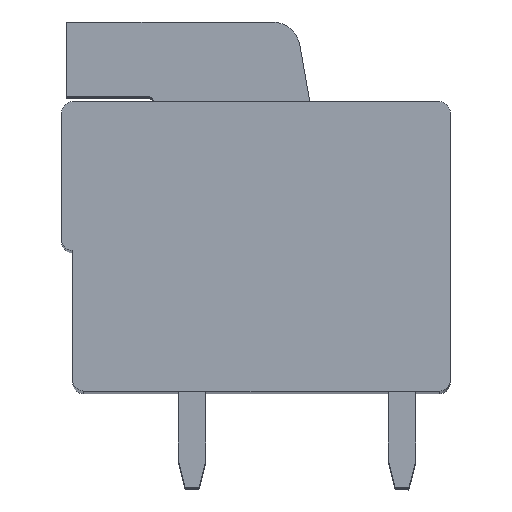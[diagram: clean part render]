
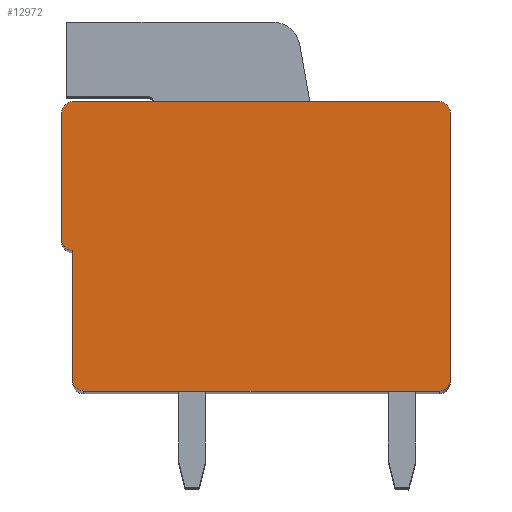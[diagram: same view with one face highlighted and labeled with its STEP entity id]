
A CAD part, top view. The second image highlights one B-rep face of the part: STEP entity #12972.
In plain terms, the highlighted planar face has unit normal (0, 0, 1).
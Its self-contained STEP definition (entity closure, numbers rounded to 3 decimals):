
#88=DIRECTION('',(0.,-1.,0.));
#89=VECTOR('',#88,4.607);
#90=CARTESIAN_POINT('',(0.002,13.603,0.));
#91=LINE('',#90,#89);
#302=DIRECTION('',(0.,-1.,0.));
#303=VECTOR('',#302,4.698);
#304=CARTESIAN_POINT('',(0.4,8.6,0.));
#305=LINE('',#304,#303);
#2142=DIRECTION('',(-1.,0.,0.));
#2143=VECTOR('',#2142,13.304);
#2144=CARTESIAN_POINT('',(13.702,14.,0.));
#2145=LINE('',#2144,#2143);
#4167=CARTESIAN_POINT('',(13.702,13.6,0.));
#4168=DIRECTION('',(0.,0.,-1.));
#4169=DIRECTION('',(0.,1.,0.));
#4170=AXIS2_PLACEMENT_3D('',#4167,#4168,#4169);
#4172=DIRECTION('',(0.,-1.,0.));
#4173=VECTOR('',#4172,9.7);
#4174=CARTESIAN_POINT('',(14.102,13.6,0.));
#4175=LINE('',#4174,#4173);
#4176=CARTESIAN_POINT('',(13.702,3.9,0.));
#4177=DIRECTION('',(0.,0.,-1.));
#4178=DIRECTION('',(1.,0.,0.));
#4179=AXIS2_PLACEMENT_3D('',#4176,#4177,#4178);
#4181=DIRECTION('',(-1.,0.,0.));
#4182=VECTOR('',#4181,12.902);
#4183=CARTESIAN_POINT('',(13.702,3.5,0.));
#4184=LINE('',#4183,#4182);
#4185=CARTESIAN_POINT('',(0.8,3.9,0.));
#4186=DIRECTION('',(0.,0.,-1.));
#4187=DIRECTION('',(0.001,-1.,0.));
#4188=AXIS2_PLACEMENT_3D('',#4185,#4186,#4187);
#4190=CARTESIAN_POINT('',(0.4,9.,0.));
#4191=DIRECTION('',(0.,0.,-1.));
#4192=DIRECTION('',(-0.001,-1.,0.));
#4193=AXIS2_PLACEMENT_3D('',#4190,#4191,#4192);
#4195=CARTESIAN_POINT('',(0.398,13.604,0.));
#4196=DIRECTION('',(0.,0.,-1.));
#4197=DIRECTION('',(-1.,-0.003,0.));
#4198=AXIS2_PLACEMENT_3D('',#4195,#4196,#4197);
#5418=CARTESIAN_POINT('',(0.8,3.5,0.));
#5420=VERTEX_POINT('',#5418);
#5422=CARTESIAN_POINT('',(13.702,14.,0.));
#5423=CARTESIAN_POINT('',(14.102,13.6,0.));
#5424=VERTEX_POINT('',#5422);
#5425=VERTEX_POINT('',#5423);
#5426=CARTESIAN_POINT('',(14.102,3.9,0.));
#5427=VERTEX_POINT('',#5426);
#5428=CARTESIAN_POINT('',(13.702,3.5,0.));
#5429=VERTEX_POINT('',#5428);
#5430=CARTESIAN_POINT('',(0.4,3.902,0.));
#5431=VERTEX_POINT('',#5430);
#5432=CARTESIAN_POINT('',(0.4,8.6,0.));
#5433=VERTEX_POINT('',#5432);
#5434=CARTESIAN_POINT('',(0.,8.996,0.));
#5435=VERTEX_POINT('',#5434);
#5436=CARTESIAN_POINT('',(0.002,13.603,0.));
#5437=VERTEX_POINT('',#5436);
#5438=CARTESIAN_POINT('',(0.398,14.,0.));
#5439=VERTEX_POINT('',#5438);
#12955=CARTESIAN_POINT('',(7.051,8.75,0.));
#12956=DIRECTION('',(0.,0.,1.));
#12957=DIRECTION('',(1.,0.,0.));
#12958=AXIS2_PLACEMENT_3D('',#12955,#12956,#12957);
#12959=PLANE('',#12958);
#12960=ORIENTED_EDGE('',*,*,#10021,.T.);
#12961=ORIENTED_EDGE('',*,*,#9979,.T.);
#12962=ORIENTED_EDGE('',*,*,#9937,.T.);
#12963=ORIENTED_EDGE('',*,*,#7655,.T.);
#12964=ORIENTED_EDGE('',*,*,#7554,.T.);
#12965=ORIENTED_EDGE('',*,*,#7508,.F.);
#12966=ORIENTED_EDGE('',*,*,#7487,.T.);
#12967=ORIENTED_EDGE('',*,*,#7245,.F.);
#12968=ORIENTED_EDGE('',*,*,#12923,.T.);
#12969=ORIENTED_EDGE('',*,*,#10063,.F.);
#12970=EDGE_LOOP('',(#12960,#12961,#12962,#12963,#12964,#12965,#12966,#12967,
#12968,#12969));
#12971=FACE_OUTER_BOUND('',#12970,.F.);
#4171=CIRCLE('',#4170,0.4);
#4180=CIRCLE('',#4179,0.4);
#4189=CIRCLE('',#4188,0.4);
#4194=CIRCLE('',#4193,0.4);
#4199=CIRCLE('',#4198,0.396);
#7245=EDGE_CURVE('',#5437,#5435,#91,.T.);
#7487=EDGE_CURVE('',#5433,#5435,#4194,.T.);
#7508=EDGE_CURVE('',#5433,#5431,#305,.T.);
#7554=EDGE_CURVE('',#5420,#5431,#4189,.T.);
#7655=EDGE_CURVE('',#5429,#5420,#4184,.T.);
#9937=EDGE_CURVE('',#5427,#5429,#4180,.T.);
#9979=EDGE_CURVE('',#5425,#5427,#4175,.T.);
#10021=EDGE_CURVE('',#5424,#5425,#4171,.T.);
#10063=EDGE_CURVE('',#5424,#5439,#2145,.T.);
#12923=EDGE_CURVE('',#5437,#5439,#4199,.T.);
#12972=ADVANCED_FACE('',(#12971),#12959,.T.);
